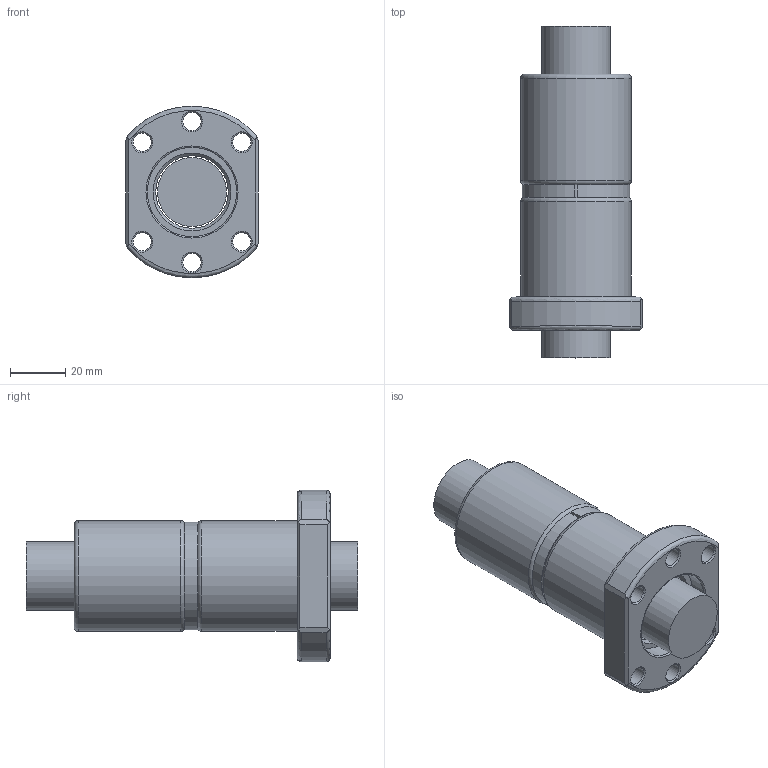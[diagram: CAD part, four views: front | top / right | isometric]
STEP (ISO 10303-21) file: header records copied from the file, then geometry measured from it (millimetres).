
FILE_DESCRIPTION(/* description */ (''),/* implementation_level */ '2;1');
FILE_NAME(/* name */ '2505.prt.step',/* time_stamp */ '2008-12-05T09:27:29+08:00',/* author */ (''),/* organization */ (''),/* preprocessor_version */ 'ST-DEVELOPER v11',/* originating_system */ 'SIEMENS UGS NX 6.0',/* authorisation */ '');
FILE_SCHEMA (('AUTOMOTIVE_DESIGN { 1 0 10303 214 1 1 1 1 }'));
Length unit declared in the file: millimetre
Products named in the file (1): 2505
Bounding box: 48 x 120 x 62 mm (x, y, z)
Volume: 133301.9 mm3; surface area: 37768.9 mm2
Topology: 5 solids, 5 shells, 76 faces, 167 edges, 106 vertices
Faces by surface type: plane 29, cylinder 21, cone 16, torus 10
Full cylindrical faces by diameter (mm): 6.6 x6, 24.95 x1, 26.2 x2, 31 x2, 32.3 x2, 40 x2
Entity records: 2090 total; most frequent: CARTESIAN_POINT 493, DIRECTION 330, ORIENTED_EDGE 248, AXIS2_PLACEMENT_3D 145, EDGE_LOOP 134, EDGE_CURVE 124, FACE_BOUND 104, VERTEX_POINT 100
